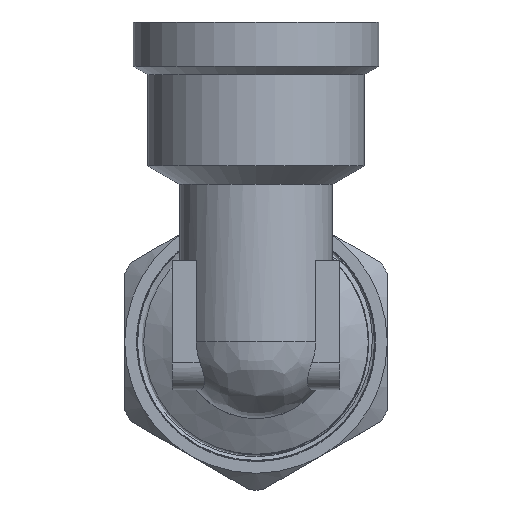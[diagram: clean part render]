
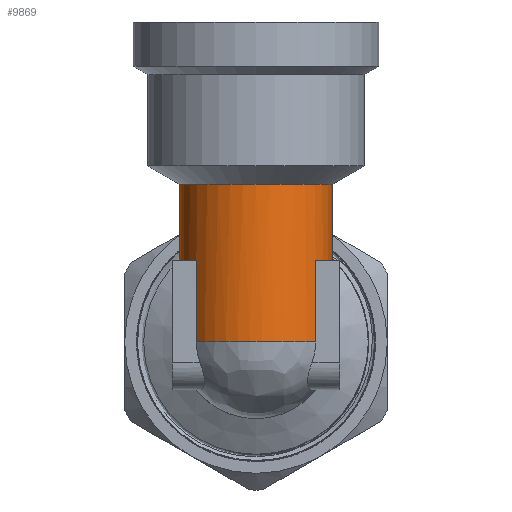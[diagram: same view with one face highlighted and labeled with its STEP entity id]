
A CAD part, front view. The second image highlights one B-rep face of the part: STEP entity #9869.
In plain terms, the highlighted cylindrical face has radius 8 mm (diameter 16 mm), a full revolution.
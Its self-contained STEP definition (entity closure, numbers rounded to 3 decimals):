
#975=ELLIPSE('',#10509,11.314,8.);
#1243=CYLINDRICAL_SURFACE('',#10573,8.);
#1403=FACE_OUTER_BOUND('',#1982,.T.);
#1982=EDGE_LOOP('',(#7059,#7060,#7061,#7062,#7063,#7064,#7065,#7066,#7067,
#7068,#7069,#7070,#7071,#7072));
#2649=LINE('',#13391,#3278);
#2652=LINE('',#13397,#3281);
#2655=LINE('',#13410,#3284);
#2660=LINE('',#13426,#3289);
#2665=LINE('',#13488,#3294);
#3278=VECTOR('',#11375,10.);
#3281=VECTOR('',#11380,10.);
#3284=VECTOR('',#11385,10.);
#3289=VECTOR('',#11392,10.);
#3294=VECTOR('',#11429,8.);
#3790=CIRCLE('',#10466,8.);
#3791=CIRCLE('',#10467,8.);
#3792=CIRCLE('',#10468,8.);
#3824=CIRCLE('',#10559,8.);
#3825=CIRCLE('',#10560,8.);
#3826=CIRCLE('',#10562,8.);
#3831=CIRCLE('',#10572,8.);
#4053=VERTEX_POINT('',#12894);
#4054=VERTEX_POINT('',#12896);
#4055=VERTEX_POINT('',#12898);
#4085=VERTEX_POINT('',#12979);
#4086=VERTEX_POINT('',#12981);
#4175=VERTEX_POINT('',#13390);
#4177=VERTEX_POINT('',#13396);
#4179=VERTEX_POINT('',#13402);
#4180=VERTEX_POINT('',#13409);
#4182=VERTEX_POINT('',#13415);
#4184=VERTEX_POINT('',#13424);
#4185=VERTEX_POINT('',#13428);
#5101=EDGE_CURVE('',#4054,#4053,#3790,.T.);
#5102=EDGE_CURVE('',#4055,#4054,#3791,.T.);
#5103=EDGE_CURVE('',#4053,#4055,#3792,.T.);
#5141=EDGE_CURVE('',#4085,#4086,#975,.T.);
#5276=EDGE_CURVE('',#4175,#4086,#2649,.T.);
#5279=EDGE_CURVE('',#4085,#4177,#2652,.T.);
#5283=EDGE_CURVE('',#4180,#4179,#2655,.T.);
#5289=EDGE_CURVE('',#4182,#4184,#2660,.T.);
#5290=EDGE_CURVE('',#4184,#4185,#3824,.T.);
#5292=EDGE_CURVE('',#4185,#4175,#3825,.T.);
#5293=EDGE_CURVE('',#4177,#4180,#3826,.T.);
#5302=EDGE_CURVE('',#4179,#4182,#3831,.T.);
#5303=EDGE_CURVE('',#4055,#4185,#2665,.T.);
#7059=ORIENTED_EDGE('',*,*,#5101,.T.);
#7060=ORIENTED_EDGE('',*,*,#5103,.T.);
#7061=ORIENTED_EDGE('',*,*,#5303,.T.);
#7062=ORIENTED_EDGE('',*,*,#5292,.T.);
#7063=ORIENTED_EDGE('',*,*,#5276,.T.);
#7064=ORIENTED_EDGE('',*,*,#5141,.F.);
#7065=ORIENTED_EDGE('',*,*,#5279,.T.);
#7066=ORIENTED_EDGE('',*,*,#5293,.T.);
#7067=ORIENTED_EDGE('',*,*,#5283,.T.);
#7068=ORIENTED_EDGE('',*,*,#5302,.T.);
#7069=ORIENTED_EDGE('',*,*,#5289,.T.);
#7070=ORIENTED_EDGE('',*,*,#5290,.T.);
#7071=ORIENTED_EDGE('',*,*,#5303,.F.);
#7072=ORIENTED_EDGE('',*,*,#5102,.T.);
#9869=ADVANCED_FACE('',(#1403),#1243,.T.);
#10466=AXIS2_PLACEMENT_3D('',#12897,#11077,#11078);
#10467=AXIS2_PLACEMENT_3D('',#12899,#11079,#11080);
#10468=AXIS2_PLACEMENT_3D('',#12900,#11081,#11082);
#10509=AXIS2_PLACEMENT_3D('',#12982,#11173,#11174);
#10559=AXIS2_PLACEMENT_3D('',#13429,#11395,#11396);
#10560=AXIS2_PLACEMENT_3D('',#13431,#11398,#11399);
#10562=AXIS2_PLACEMENT_3D('',#13433,#11402,#11403);
#10572=AXIS2_PLACEMENT_3D('',#13465,#11425,#11426);
#10573=AXIS2_PLACEMENT_3D('',#13487,#11427,#11428);
#11077=DIRECTION('center_axis',(0.,0.,-1.));
#11078=DIRECTION('ref_axis',(-1.,0.,0.));
#11079=DIRECTION('center_axis',(0.,0.,-1.));
#11080=DIRECTION('ref_axis',(-1.,0.,0.));
#11081=DIRECTION('center_axis',(0.,0.,-1.));
#11082=DIRECTION('ref_axis',(-1.,0.,0.));
#11173=DIRECTION('center_axis',(0.,0.707,-0.707));
#11174=DIRECTION('ref_axis',(0.,-0.707,-0.707));
#11375=DIRECTION('',(0.,0.,-1.));
#11380=DIRECTION('',(0.,0.,1.));
#11385=DIRECTION('',(0.,0.,-1.));
#11392=DIRECTION('',(0.,0.,1.));
#11395=DIRECTION('center_axis',(0.,0.,1.));
#11396=DIRECTION('ref_axis',(-1.,0.,0.));
#11398=DIRECTION('center_axis',(0.,0.,1.));
#11399=DIRECTION('ref_axis',(-1.,0.,0.));
#11402=DIRECTION('center_axis',(0.,0.,1.));
#11403=DIRECTION('ref_axis',(-1.,0.,0.));
#11425=DIRECTION('center_axis',(0.,0.,1.));
#11426=DIRECTION('ref_axis',(-1.,0.,0.));
#11427=DIRECTION('center_axis',(0.,0.,1.));
#11428=DIRECTION('ref_axis',(-1.,0.,0.));
#11429=DIRECTION('',(0.,0.,-1.));
#12894=CARTESIAN_POINT('',(0.,-20.5,16.5));
#12896=CARTESIAN_POINT('',(0.,-36.5,16.5));
#12897=CARTESIAN_POINT('Origin',(0.,-28.5,16.5));
#12898=CARTESIAN_POINT('',(8.,-28.5,16.5));
#12899=CARTESIAN_POINT('Origin',(0.,-28.5,16.5));
#12900=CARTESIAN_POINT('Origin',(0.,-28.5,16.5));
#12979=CARTESIAN_POINT('',(-6.245,-23.5,5.));
#12981=CARTESIAN_POINT('',(6.245,-23.5,5.));
#12982=CARTESIAN_POINT('Origin',(0.,-28.5,0.));
#13390=CARTESIAN_POINT('',(6.245,-23.5,8.5));
#13391=CARTESIAN_POINT('',(6.245,-23.5,0.));
#13396=CARTESIAN_POINT('',(-6.245,-23.5,8.5));
#13397=CARTESIAN_POINT('',(-6.245,-23.5,0.));
#13402=CARTESIAN_POINT('',(-6.245,-33.5,0.));
#13409=CARTESIAN_POINT('',(-6.245,-33.5,8.5));
#13410=CARTESIAN_POINT('',(-6.245,-33.5,0.));
#13415=CARTESIAN_POINT('',(6.245,-33.5,0.));
#13424=CARTESIAN_POINT('',(6.245,-33.5,8.5));
#13426=CARTESIAN_POINT('',(6.245,-33.5,0.));
#13428=CARTESIAN_POINT('',(8.,-28.5,8.5));
#13429=CARTESIAN_POINT('Origin',(0.,-28.5,8.5));
#13431=CARTESIAN_POINT('Origin',(0.,-28.5,8.5));
#13433=CARTESIAN_POINT('Origin',(0.,-28.5,8.5));
#13465=CARTESIAN_POINT('Origin',(0.,-28.5,0.));
#13487=CARTESIAN_POINT('Origin',(0.,-28.5,0.));
#13488=CARTESIAN_POINT('',(8.,-28.5,0.));
